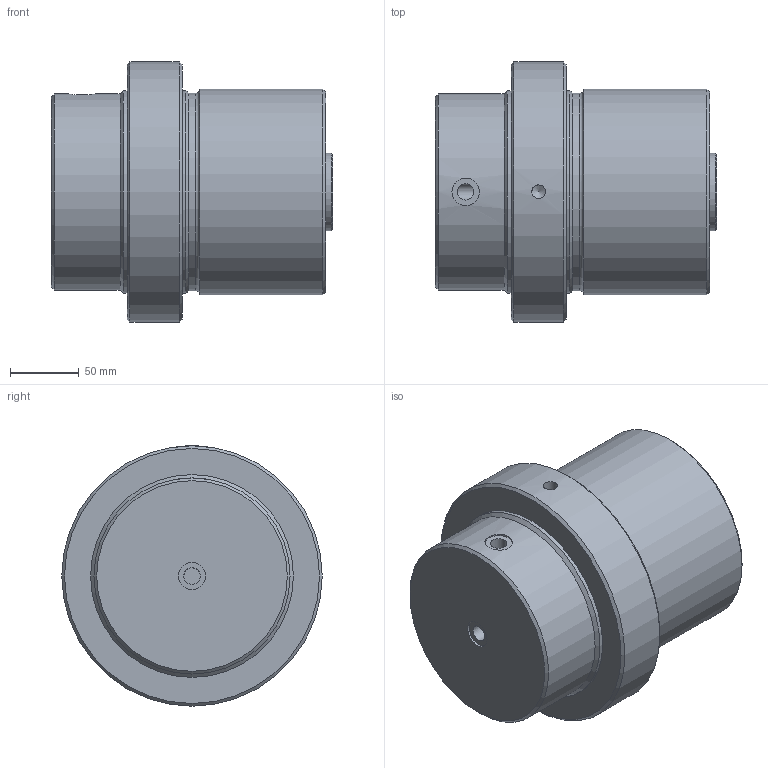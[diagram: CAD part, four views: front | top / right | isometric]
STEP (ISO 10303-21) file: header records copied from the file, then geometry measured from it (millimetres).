
FILE_DESCRIPTION( ( 'Unknown' ), '1' );
FILE_NAME( 'F:/JAKOB-STEP+IGES-Dateien/STEP-Dateien/ZSF/ZSF 20000.stp', 'Unknown', ( 'Unknown' ), ( 'Unknown' ), 'XStep 1.0', 'Unknown', ' ' );
FILE_SCHEMA( ( 'CONFIG_CONTROL_DESIGN' ) );
Length unit declared in the file: millimetre
Products named in the file (1): 1
Bounding box: 205 x 190 x 190 mm (x, y, z)
Volume: 3749014.8 mm3; surface area: 168083.3 mm2
Topology: 1 solids, 1 shells, 32 faces, 71 edges, 44 vertices
Faces by surface type: cylinder 13, cone 10, plane 8, torus 1
Full cylindrical faces by diameter (mm): 10 x1, 12 x2, 20 x2, 43.376 x1, 56.4 x1, 143 x1, 144 x1, 148 x2, 150 x1, 190 x1
Entity records: 867 total; most frequent: CARTESIAN_POINT 264, DIRECTION 128, ORIENTED_EDGE 66, AXIS2_PLACEMENT_3D 64, EDGE_LOOP 64, FACE_OUTER_BOUND 46, VERTEX_POINT 35, EDGE_CURVE 33
